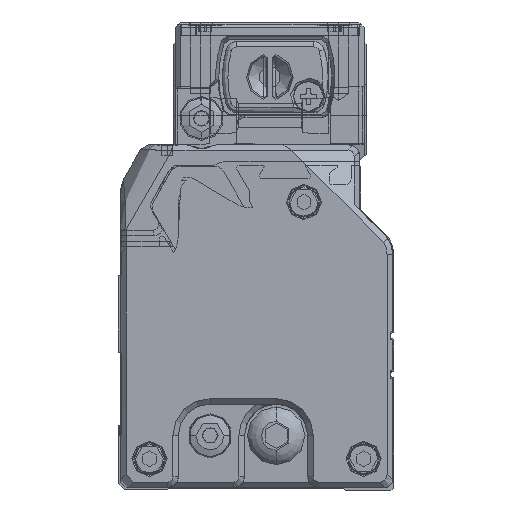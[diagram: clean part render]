
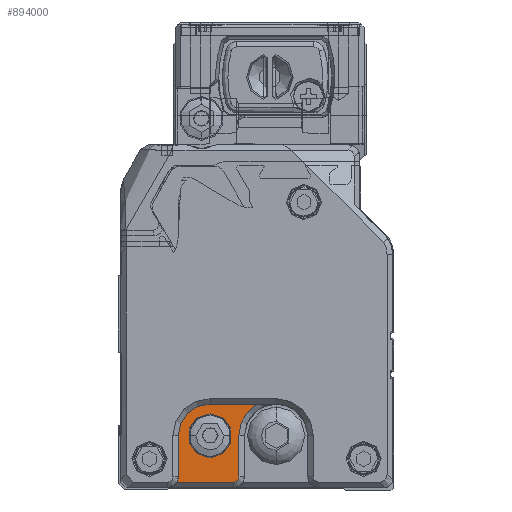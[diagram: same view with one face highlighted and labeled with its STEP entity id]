
A CAD part, left-side view. The second image highlights one B-rep face of the part: STEP entity #894000.
In plain terms, the highlighted planar face has unit normal (-1, 0, 0) as drawn and (1, 0, 0) by its records, which use the part's own axes.
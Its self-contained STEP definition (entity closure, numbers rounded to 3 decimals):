
#892450=CARTESIAN_POINT('',(6864.177,2.462,
3.148));
#892460=DIRECTION('',(-1.,0.,0.));
#892470=DIRECTION('',(0.,1.,0.));
#892480=AXIS2_PLACEMENT_3D('',#892450,#892460,#892470);
#892490=CIRCLE('',#892480,5.75);
#892500=CARTESIAN_POINT('',(6864.177,8.212,
3.148));
#892510=VERTEX_POINT('',#892500);
#892520=CARTESIAN_POINT('',(6864.177,2.462,
-2.602));
#892530=VERTEX_POINT('',#892520);
#892540=EDGE_CURVE('',#892510,#892530,#892490,.T.);
#892950=CARTESIAN_POINT('',(6864.177,8.212,
3.148));
#892960=DIRECTION('',(0.,0.,1.));
#892970=VECTOR('',#892960,1.);
#892980=LINE('',#892950,#892970);
#892990=CARTESIAN_POINT('',(6864.177,8.212,
10.598));
#893000=VERTEX_POINT('',#892990);
#893010=EDGE_CURVE('',#892510,#893000,#892980,.T.);
#893270=CARTESIAN_POINT('',(6864.177,-5.938,
-12.8));
#893280=DIRECTION('',(-1.,0.,0.));
#893290=DIRECTION('',(0.,0.,-1.));
#893300=AXIS2_PLACEMENT_3D('',#893270,#893280,#893290);
#893310=PLANE('',#893300);
#893320=CARTESIAN_POINT('',(6864.177,4.212,
11.598));
#893330=DIRECTION('',(0.,-1.,0.));
#893340=VECTOR('',#893330,1.);
#893350=LINE('',#893320,#893340);
#893360=CARTESIAN_POINT('',(6864.177,8.48,
11.598));
#893370=VERTEX_POINT('',#893360);
#893380=CARTESIAN_POINT('',(6864.177,-1.788,
11.598));
#893390=VERTEX_POINT('',#893380);
#893400=EDGE_CURVE('',#893370,#893390,#893350,.T.);
#893410=ORIENTED_EDGE('',*,*,#893400,.T.);
#893420=CARTESIAN_POINT('',(6864.177,10.212,
10.598));
#893430=DIRECTION('',(-1.,0.,0.));
#893440=DIRECTION('',(0.,1.,0.));
#893450=AXIS2_PLACEMENT_3D('',#893420,#893430,#893440);
#893460=CIRCLE('',#893450,2.);
#893470=EDGE_CURVE('',#893000,#893370,#893460,.T.);
#893480=ORIENTED_EDGE('',*,*,#893470,.T.);
#893490=ORIENTED_EDGE('',*,*,#893010,.T.);
#893500=ORIENTED_EDGE('',*,*,#892540,.F.);
#893510=CARTESIAN_POINT('',(6864.177,-5.888,
-2.602));
#893520=DIRECTION('',(0.,1.,0.));
#893530=VECTOR('',#893520,1.);
#893540=LINE('',#893510,#893530);
#893550=CARTESIAN_POINT('',(6864.177,-6.002,
-2.602));
#893560=VERTEX_POINT('',#893550);
#893570=EDGE_CURVE('',#893560,#892530,#893540,.T.);
#893580=ORIENTED_EDGE('',*,*,#893570,.T.);
#893590=CARTESIAN_POINT('',(6864.177,-9.538,
3.148));
#893600=DIRECTION('',(-1.,0.,0.));
#893610=DIRECTION('',(0.,1.,0.));
#893620=AXIS2_PLACEMENT_3D('',#893590,#893600,#893610);
#893630=CIRCLE('',#893620,6.75);
#893640=CARTESIAN_POINT('',(6864.177,-2.788,
3.148));
#893650=VERTEX_POINT('',#893640);
#893660=EDGE_CURVE('',#893650,#893560,#893630,.T.);
#893670=ORIENTED_EDGE('',*,*,#893660,.T.);
#893680=CARTESIAN_POINT('',(6864.177,-2.788,
6.873));
#893690=DIRECTION('',(0.,0.,-1.));
#893700=VECTOR('',#893690,1.);
#893710=LINE('',#893680,#893700);
#893720=CARTESIAN_POINT('',(6864.177,-2.788,
10.598));
#893730=VERTEX_POINT('',#893720);
#893740=EDGE_CURVE('',#893730,#893650,#893710,.T.);
#893750=ORIENTED_EDGE('',*,*,#893740,.T.);
#893760=CARTESIAN_POINT('',(6864.177,-1.788,
10.598));
#893770=DIRECTION('',(-1.,0.,0.));
#893780=DIRECTION('',(0.,1.,0.));
#893790=AXIS2_PLACEMENT_3D('',#893760,#893770,#893780);
#893800=CIRCLE('',#893790,1.);
#893810=EDGE_CURVE('',#893730,#893390,#893800,.T.);
#893820=ORIENTED_EDGE('',*,*,#893810,.F.);
#893830=EDGE_LOOP('',(#893820,#893750,#893670,#893580,#893500,#893490,
#893480,#893410));
#893840=FACE_OUTER_BOUND('',#893830,.T.);
#893850=CARTESIAN_POINT('',(6864.177,2.462,
3.148));
#893860=DIRECTION('',(-1.,0.,0.));
#893870=DIRECTION('',(0.,0.,-1.));
#893880=AXIS2_PLACEMENT_3D('',#893850,#893860,#893870);
#893890=CIRCLE('',#893880,4.);
#893900=CARTESIAN_POINT('',(6864.177,2.462,
7.148));
#893910=VERTEX_POINT('',#893900);
#893920=CARTESIAN_POINT('',(6864.177,2.462,
-0.852));
#893930=VERTEX_POINT('',#893920);
#893940=EDGE_CURVE('',#893910,#893930,#893890,.T.);
#893950=ORIENTED_EDGE('',*,*,#893940,.T.);
#893960=EDGE_CURVE('',#893930,#893910,#893890,.T.);
#893970=ORIENTED_EDGE('',*,*,#893960,.T.);
#893980=EDGE_LOOP('',(#893970,#893950));
#893990=FACE_BOUND('',#893980,.T.);
#894000=ADVANCED_FACE('',(#893840,#893990),#893310,.F.);
